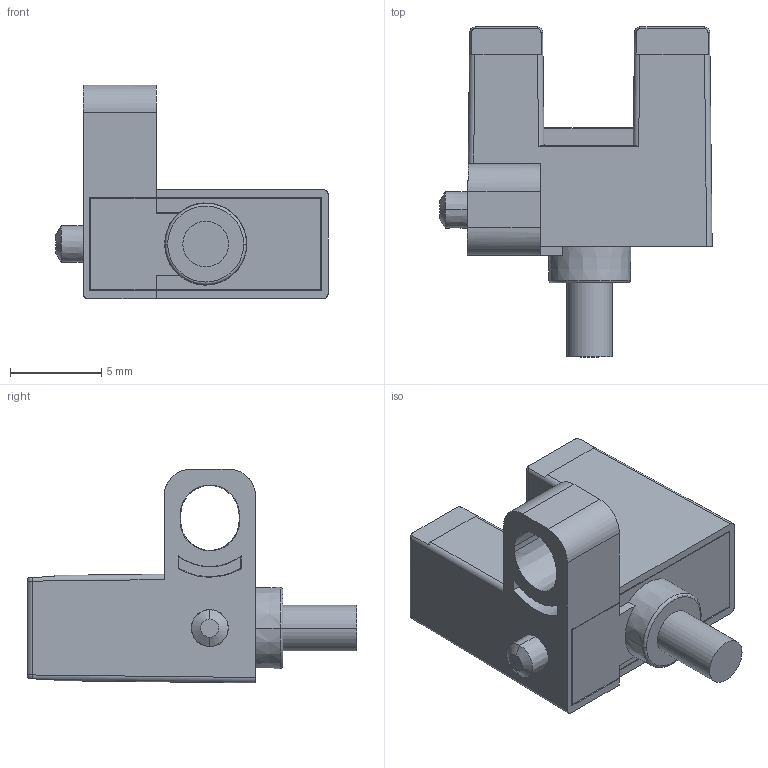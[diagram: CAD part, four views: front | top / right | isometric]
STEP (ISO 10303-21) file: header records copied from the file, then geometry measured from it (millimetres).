
FILE_DESCRIPTION((''),'2;1');
FILE_NAME('PM-F25_ASM','2018-06-23T14:24:53',('Administrator'),(''),'CREO PARAMETRIC BY PTC INC, 2016390','CREO PARAMETRIC BY PTC INC, 2016390','');
FILE_SCHEMA(('AUTOMOTIVE_DESIGN { 1 0 10303 214 1 1 1 1 }'));
Length unit declared in the file: millimetre
Products named in the file (3): PM-FR25_11; PM-FR25_22; PM-F25_ASM
Assembly tree (2 placements, depth 2):
  PM-F25_ASM
    PM-FR25_11
    PM-FR25_22
Bounding box: 14.9 x 18.05 x 11.71 mm (x, y, z)
Volume: 490.7 mm3; surface area: 1389 mm2
Topology: 3 solids, 3 shells, 159 faces, 435 edges, 281 vertices
Faces by surface type: plane 114, cylinder 25, cone 10, sphere 8, torus 2
Entity records: 5295 total; most frequent: CARTESIAN_POINT 1037, ORIENTED_EDGE 858, DIRECTION 786, EDGE_CURVE 429, VECTOR 328, LINE 328, VERTEX_POINT 281, AXIS2_PLACEMENT_3D 229
